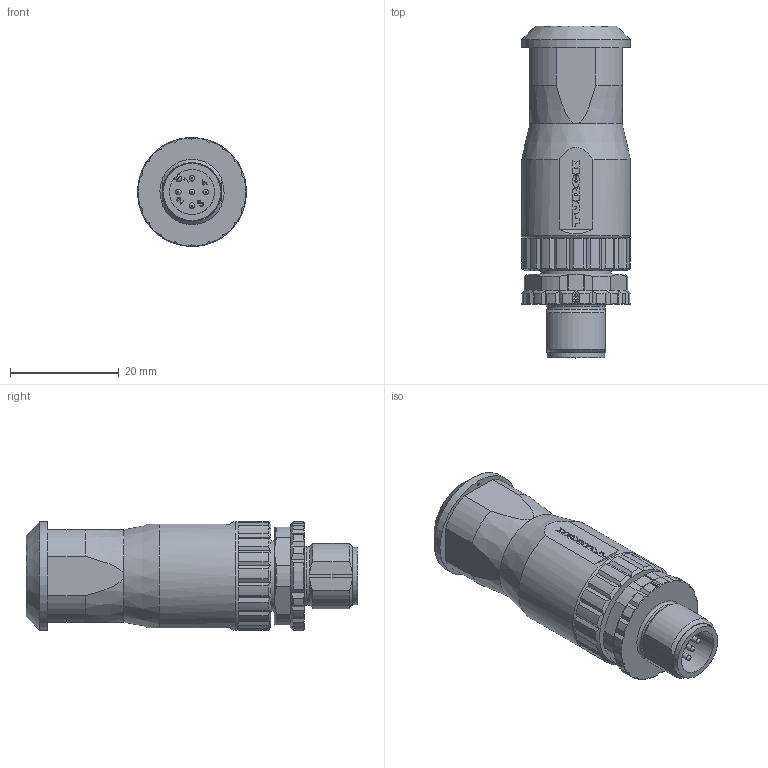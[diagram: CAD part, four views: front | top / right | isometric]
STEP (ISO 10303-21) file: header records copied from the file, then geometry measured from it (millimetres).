
FILE_DESCRIPTION(/* description */ (''),/* implementation_level */ '2;1');
FILE_NAME(/* name */ 'K:\Step\43\43K1A3924_5pol_TURCK_.stp',/* time_stamp */ '2018-01-11T07:45:25+01:00',/* author */ ('RuthChristen'),/* organization */ (''),/* preprocessor_version */ 'ST-DEVELOPER v16.13',/* originating_system */ 'Autodesk Inventor 2018',/* authorisation */ '');
FILE_SCHEMA (('AUTOMOTIVE_DESIGN { 1 0 10303 214 3 1 1 }'));
Length unit declared in the file: millimetre
Products named in the file (1): Bauteil1
Bounding box: 20 x 61 x 20 mm (x, y, z)
Volume: 14841.5 mm3; surface area: 4778.9 mm2
Topology: 1 solids, 1 shells, 396 faces, 1088 edges, 719 vertices
Faces by surface type: plane 196, cylinder 94, torus 45, bspline 40, cone 21
Full cylindrical faces by diameter (mm): 0.5 x1, 1.01 x5, 8.3 x1, 10.5 x1, 10.8 x1, 13 x1, 20 x2
Entity records: 13767 total; most frequent: CARTESIAN_POINT 3788, ORIENTED_EDGE 2116, DIRECTION 1844, EDGE_CURVE 1058, VERTEX_POINT 709, AXIS2_PLACEMENT_3D 667, LINE 510, VECTOR 510
